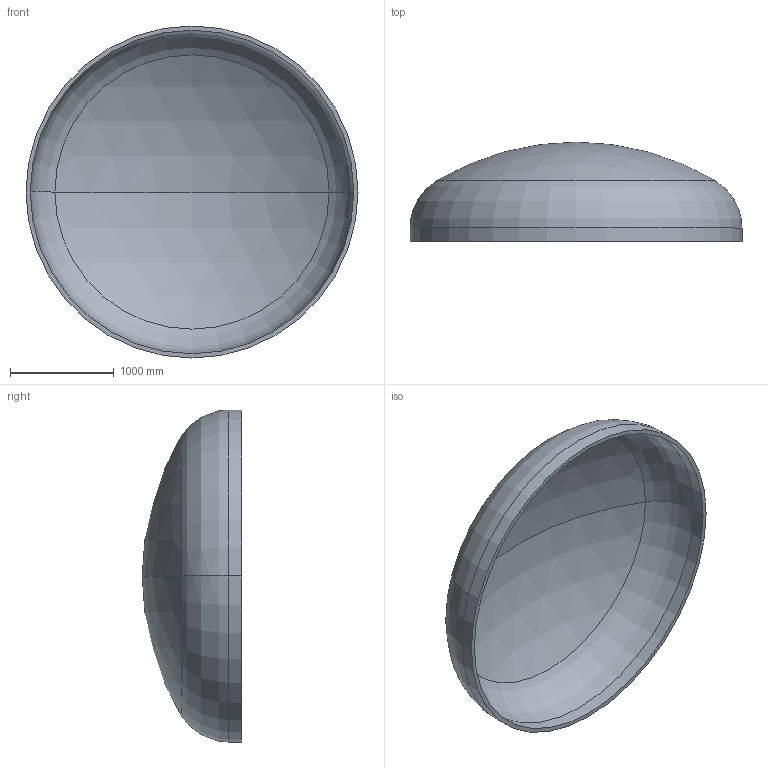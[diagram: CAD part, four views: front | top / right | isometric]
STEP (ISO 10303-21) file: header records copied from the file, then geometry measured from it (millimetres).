
FILE_DESCRIPTION (( 'STEP AP203' ), '1' );
FILE_NAME ('DIN 28013 Korbbogenform_-_Boden DIN 28013 - 3200 x 130 - I - s=41.step', '2016-07-01T18:37:02', ( '' ), ( '' ), 'SwSTEP 2.0', 'SolidWorks 2013', '' );
FILE_SCHEMA (( 'CONFIG_CONTROL_DESIGN' ));
Length unit declared in the file: millimetre
Products named in the file (1): DIN 28013 Korbbogenform_-_Boden DIN 28013 - 3200 x 130 - I - s=41
Bounding box: 3200 x 958.39 x 3200 mm (x, y, z)
Volume: 501412333.2 mm3; surface area: 24869546.2 mm2
Topology: 1 solids, 1 shells, 13 faces, 24 edges, 14 vertices
Faces by surface type: torus 4, cylinder 4, sphere 4, plane 1
Entity records: 407 total; most frequent: DIRECTION 72, CARTESIAN_POINT 52, ORIENTED_EDGE 48, AXIS2_PLACEMENT_3D 34, EDGE_CURVE 24, CIRCLE 20, EDGE_LOOP 14, VERTEX_POINT 14
